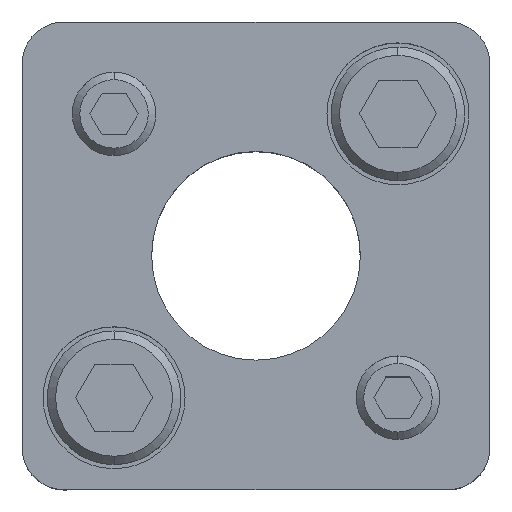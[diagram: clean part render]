
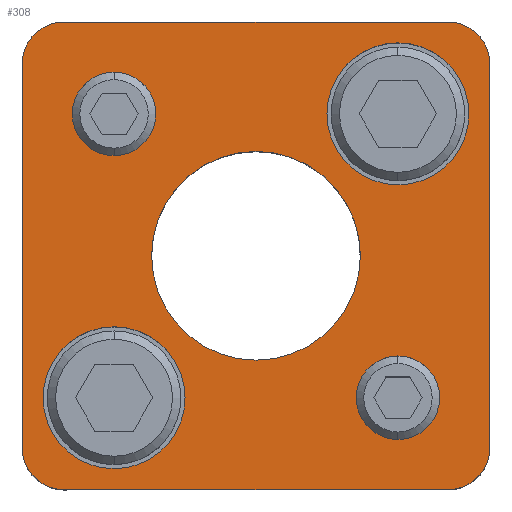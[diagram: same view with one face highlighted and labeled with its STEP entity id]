
A CAD part, top view. The second image highlights one B-rep face of the part: STEP entity #308.
In plain terms, the highlighted planar face has unit normal (0, 0, 1).
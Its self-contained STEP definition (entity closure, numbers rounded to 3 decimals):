
#165=PLANE('',#2573);
#228=FACE_BOUND('',#643,.T.);
#229=FACE_BOUND('',#644,.T.);
#230=FACE_BOUND('',#645,.T.);
#231=FACE_BOUND('',#646,.T.);
#232=FACE_BOUND('',#647,.T.);
#233=FACE_BOUND('',#648,.T.);
#308=ADVANCED_FACE('',(#228,#229,#230,#231,#232,#233),#165,.T.);
#643=EDGE_LOOP('',(#1338,#1339,#1340,#1341,#1342,#1343,#1344,#1345));
#644=EDGE_LOOP('',(#1346,#1347));
#645=EDGE_LOOP('',(#1348,#1349));
#646=EDGE_LOOP('',(#1350,#1351));
#647=EDGE_LOOP('',(#1352,#1353));
#648=EDGE_LOOP('',(#1354,#1355));
#807=LINE('',#3777,#990);
#808=LINE('',#3781,#991);
#809=LINE('',#3785,#992);
#810=LINE('',#3789,#993);
#990=VECTOR('',#3016,1.);
#991=VECTOR('',#3019,1.);
#992=VECTOR('',#3022,1.);
#993=VECTOR('',#3025,1.);
#1338=ORIENTED_EDGE('',*,*,#2108,.T.);
#1339=ORIENTED_EDGE('',*,*,#2109,.T.);
#1340=ORIENTED_EDGE('',*,*,#2110,.T.);
#1341=ORIENTED_EDGE('',*,*,#2111,.T.);
#1342=ORIENTED_EDGE('',*,*,#2112,.T.);
#1343=ORIENTED_EDGE('',*,*,#2113,.T.);
#1344=ORIENTED_EDGE('',*,*,#2114,.T.);
#1345=ORIENTED_EDGE('',*,*,#2115,.T.);
#1346=ORIENTED_EDGE('',*,*,#2116,.F.);
#1347=ORIENTED_EDGE('',*,*,#2117,.F.);
#1348=ORIENTED_EDGE('',*,*,#2118,.F.);
#1349=ORIENTED_EDGE('',*,*,#2119,.F.);
#1350=ORIENTED_EDGE('',*,*,#2094,.F.);
#1351=ORIENTED_EDGE('',*,*,#2090,.F.);
#1352=ORIENTED_EDGE('',*,*,#2088,.F.);
#1353=ORIENTED_EDGE('',*,*,#2084,.F.);
#1354=ORIENTED_EDGE('',*,*,#2120,.T.);
#1355=ORIENTED_EDGE('',*,*,#2121,.T.);
#1842=VERTEX_POINT('',#3725);
#1843=VERTEX_POINT('',#3726);
#1846=VERTEX_POINT('',#3738);
#1847=VERTEX_POINT('',#3739);
#1858=VERTEX_POINT('',#3775);
#1859=VERTEX_POINT('',#3776);
#1860=VERTEX_POINT('',#3778);
#1861=VERTEX_POINT('',#3780);
#1862=VERTEX_POINT('',#3782);
#1863=VERTEX_POINT('',#3784);
#1864=VERTEX_POINT('',#3786);
#1865=VERTEX_POINT('',#3788);
#1866=VERTEX_POINT('',#3791);
#1867=VERTEX_POINT('',#3792);
#1868=VERTEX_POINT('',#3795);
#1869=VERTEX_POINT('',#3796);
#1870=VERTEX_POINT('',#3799);
#1871=VERTEX_POINT('',#3800);
#2084=EDGE_CURVE('',#1842,#1843,#2361,.T.);
#2088=EDGE_CURVE('',#1843,#1842,#2363,.T.);
#2090=EDGE_CURVE('',#1846,#1847,#2365,.T.);
#2094=EDGE_CURVE('',#1847,#1846,#2367,.T.);
#2108=EDGE_CURVE('',#1858,#1859,#2377,.T.);
#2109=EDGE_CURVE('',#1859,#1860,#807,.T.);
#2110=EDGE_CURVE('',#1860,#1861,#2378,.T.);
#2111=EDGE_CURVE('',#1861,#1862,#808,.T.);
#2112=EDGE_CURVE('',#1862,#1863,#2379,.T.);
#2113=EDGE_CURVE('',#1863,#1864,#809,.T.);
#2114=EDGE_CURVE('',#1864,#1865,#2380,.T.);
#2115=EDGE_CURVE('',#1865,#1858,#810,.T.);
#2116=EDGE_CURVE('',#1866,#1867,#2381,.T.);
#2117=EDGE_CURVE('',#1867,#1866,#2382,.T.);
#2118=EDGE_CURVE('',#1868,#1869,#2383,.T.);
#2119=EDGE_CURVE('',#1869,#1868,#2384,.T.);
#2120=EDGE_CURVE('',#1870,#1871,#2385,.T.);
#2121=EDGE_CURVE('',#1871,#1870,#2386,.T.);
#2361=CIRCLE('',#2537,5.);
#2363=CIRCLE('',#2540,5.);
#2365=CIRCLE('',#2544,5.);
#2367=CIRCLE('',#2547,5.);
#2377=CIRCLE('',#2563,5.);
#2378=CIRCLE('',#2564,5.);
#2379=CIRCLE('',#2565,5.);
#2380=CIRCLE('',#2566,5.);
#2381=CIRCLE('',#2567,8.5);
#2382=CIRCLE('',#2568,8.5);
#2383=CIRCLE('',#2569,8.5);
#2384=CIRCLE('',#2570,8.5);
#2385=CIRCLE('',#2571,12.5);
#2386=CIRCLE('',#2572,12.5);
#2537=AXIS2_PLACEMENT_3D('',#3724,#2954,#2955);
#2540=AXIS2_PLACEMENT_3D('',#3733,#2962,#2963);
#2544=AXIS2_PLACEMENT_3D('',#3737,#2970,#2971);
#2547=AXIS2_PLACEMENT_3D('',#3746,#2978,#2979);
#2563=AXIS2_PLACEMENT_3D('',#3774,#3014,#3015);
#2564=AXIS2_PLACEMENT_3D('',#3779,#3017,#3018);
#2565=AXIS2_PLACEMENT_3D('',#3783,#3020,#3021);
#2566=AXIS2_PLACEMENT_3D('',#3787,#3023,#3024);
#2567=AXIS2_PLACEMENT_3D('',#3790,#3026,#3027);
#2568=AXIS2_PLACEMENT_3D('',#3793,#3028,#3029);
#2569=AXIS2_PLACEMENT_3D('',#3794,#3030,#3031);
#2570=AXIS2_PLACEMENT_3D('',#3797,#3032,#3033);
#2571=AXIS2_PLACEMENT_3D('',#3798,#3034,#3035);
#2572=AXIS2_PLACEMENT_3D('',#3801,#3036,#3037);
#2573=AXIS2_PLACEMENT_3D('',#3802,#3038,#3039);
#2954=DIRECTION('',(0.,0.,1.));
#2955=DIRECTION('',(-1.,0.,0.));
#2962=DIRECTION('',(0.,0.,1.));
#2963=DIRECTION('',(1.,0.,0.));
#2970=DIRECTION('',(0.,0.,1.));
#2971=DIRECTION('',(-1.,0.,0.));
#2978=DIRECTION('',(0.,0.,1.));
#2979=DIRECTION('',(1.,0.,0.));
#3014=DIRECTION('',(0.,0.,1.));
#3015=DIRECTION('',(-0.707,0.707,0.));
#3016=DIRECTION('',(0.,1.,0.));
#3017=DIRECTION('',(0.,0.,1.));
#3018=DIRECTION('',(-0.707,-0.707,0.));
#3019=DIRECTION('',(-1.,0.,0.));
#3020=DIRECTION('',(0.,0.,1.));
#3021=DIRECTION('',(0.707,-0.707,0.));
#3022=DIRECTION('',(0.,-1.,0.));
#3023=DIRECTION('',(0.,0.,1.));
#3024=DIRECTION('',(0.707,0.707,0.));
#3025=DIRECTION('',(1.,0.,0.));
#3026=DIRECTION('',(0.,0.,1.));
#3027=DIRECTION('',(1.,0.,0.));
#3028=DIRECTION('',(0.,0.,1.));
#3029=DIRECTION('',(-1.,0.,0.));
#3030=DIRECTION('',(0.,0.,1.));
#3031=DIRECTION('',(1.,0.,0.));
#3032=DIRECTION('',(0.,0.,1.));
#3033=DIRECTION('',(-1.,0.,0.));
#3034=DIRECTION('',(0.,0.,-1.));
#3035=DIRECTION('',(-1.,0.,0.));
#3036=DIRECTION('',(0.,0.,-1.));
#3037=DIRECTION('',(1.,0.,0.));
#3038=DIRECTION('',(0.,0.,1.));
#3039=DIRECTION('',(-1.,0.,0.));
#3724=CARTESIAN_POINT('',(17.,-17.,30.));
#3725=CARTESIAN_POINT('',(17.,-22.,30.));
#3726=CARTESIAN_POINT('',(17.,-12.,30.));
#3733=CARTESIAN_POINT('',(17.,-17.,30.));
#3737=CARTESIAN_POINT('',(-17.,17.,30.));
#3738=CARTESIAN_POINT('',(-17.,12.,30.));
#3739=CARTESIAN_POINT('',(-17.,22.,30.));
#3746=CARTESIAN_POINT('',(-17.,17.,30.));
#3774=CARTESIAN_POINT('',(23.,-23.,30.));
#3775=CARTESIAN_POINT('',(23.,-28.,30.));
#3776=CARTESIAN_POINT('',(28.,-23.,30.));
#3777=CARTESIAN_POINT('',(28.,23.,30.));
#3778=CARTESIAN_POINT('',(28.,23.,30.));
#3779=CARTESIAN_POINT('',(23.,23.,30.));
#3780=CARTESIAN_POINT('',(23.,28.,30.));
#3781=CARTESIAN_POINT('',(-23.,28.,30.));
#3782=CARTESIAN_POINT('',(-23.,28.,30.));
#3783=CARTESIAN_POINT('',(-23.,23.,30.));
#3784=CARTESIAN_POINT('',(-28.,23.,30.));
#3785=CARTESIAN_POINT('',(-28.,23.,30.));
#3786=CARTESIAN_POINT('',(-28.,-23.,30.));
#3787=CARTESIAN_POINT('',(-23.,-23.,30.));
#3788=CARTESIAN_POINT('',(-23.,-28.,30.));
#3789=CARTESIAN_POINT('',(-23.,-28.,30.));
#3790=CARTESIAN_POINT('',(17.,17.,30.));
#3791=CARTESIAN_POINT('',(17.,25.5,30.));
#3792=CARTESIAN_POINT('',(17.,8.5,30.));
#3793=CARTESIAN_POINT('',(17.,17.,30.));
#3794=CARTESIAN_POINT('',(-17.,-17.,30.));
#3795=CARTESIAN_POINT('',(-17.,-8.5,30.));
#3796=CARTESIAN_POINT('',(-17.,-25.5,30.));
#3797=CARTESIAN_POINT('',(-17.,-17.,30.));
#3798=CARTESIAN_POINT('',(0.,0.,30.));
#3799=CARTESIAN_POINT('',(0.,12.5,30.));
#3800=CARTESIAN_POINT('',(0.,-12.5,30.));
#3801=CARTESIAN_POINT('',(0.,0.,30.));
#3802=CARTESIAN_POINT('',(23.,-28.,30.));
